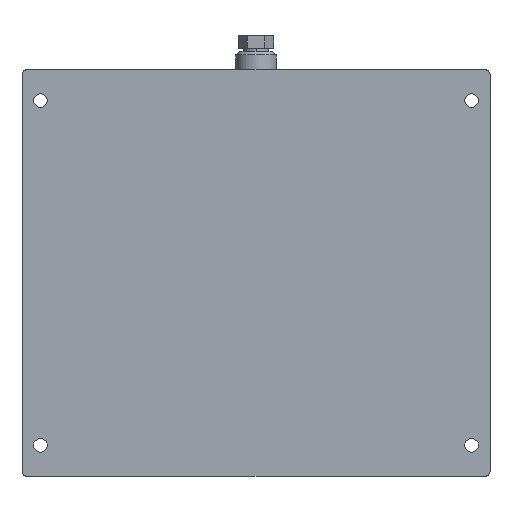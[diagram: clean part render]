
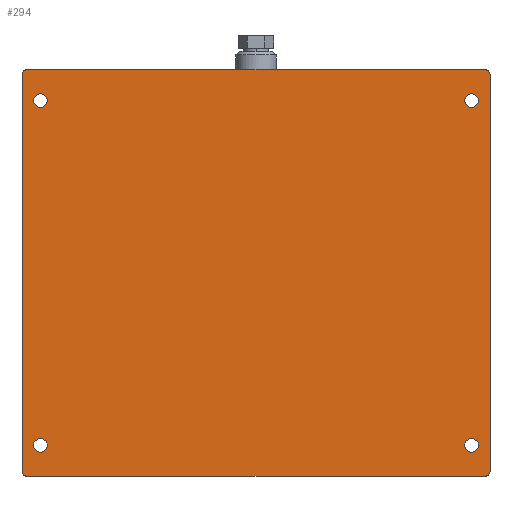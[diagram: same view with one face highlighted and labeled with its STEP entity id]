
A CAD part, front view. The second image highlights one B-rep face of the part: STEP entity #294.
In plain terms, the highlighted planar face has unit normal (0, -1, 0).
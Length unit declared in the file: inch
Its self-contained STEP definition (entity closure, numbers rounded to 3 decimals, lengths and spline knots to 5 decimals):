
#8 = CARTESIAN_POINT ( 'NONE',  ( -8.75, -0.1875, 7. ) ) ;
#44 = CARTESIAN_POINT ( 'NONE',  ( 9.5, -0.1875, 8.0625 ) ) ;
#72 = DIRECTION ( 'NONE',  ( 0., 1., 0. ) ) ;
#84 = EDGE_LOOP ( 'NONE', ( #1628, #2395 ) ) ;
#90 = ORIENTED_EDGE ( 'NONE', *, *, #1311, .F. ) ;
#91 = FACE_BOUND ( 'NONE', #2228, .T. ) ;
#112 = CARTESIAN_POINT ( 'NONE',  ( 8.75, -0.1875, -6.71875 ) ) ;
#143 = EDGE_CURVE ( 'NONE', #2047, #2865, #2014, .T. ) ;
#145 = DIRECTION ( 'NONE',  ( 0., 0., -1. ) ) ;
#162 = CARTESIAN_POINT ( 'NONE',  ( -9.5, -0.1875, 8.0625 ) ) ;
#231 = AXIS2_PLACEMENT_3D ( 'NONE', #2525, #860, #2510 ) ;
#235 = CARTESIAN_POINT ( 'NONE',  ( 8.75, -0.1875, -7. ) ) ;
#294 = ADVANCED_FACE ( 'NONE', ( #2486, #91, #2980, #1715, #2904 ), #1801, .F. ) ;
#296 = CARTESIAN_POINT ( 'NONE',  ( -9.3125, -0.1875, -8.25 ) ) ;
#305 = EDGE_CURVE ( 'NONE', #2865, #762, #2189, .T. ) ;
#311 = CIRCLE ( 'NONE', #2824, 0.28125 ) ;
#352 = VERTEX_POINT ( 'NONE', #1814 ) ;
#407 = CIRCLE ( 'NONE', #1064, 0.28125 ) ;
#409 = CIRCLE ( 'NONE', #1780, 0.1875 ) ;
#411 = VERTEX_POINT ( 'NONE', #162 ) ;
#431 = DIRECTION ( 'NONE',  ( 1., 0., 0. ) ) ;
#440 = DIRECTION ( 'NONE',  ( 0., 0., 1. ) ) ;
#441 = VERTEX_POINT ( 'NONE', #1335 ) ;
#471 = VECTOR ( 'NONE', #1276, 39.37008 ) ;
#507 = CARTESIAN_POINT ( 'NONE',  ( -8.75, -0.1875, -7. ) ) ;
#537 = ORIENTED_EDGE ( 'NONE', *, *, #1453, .T. ) ;
#563 = EDGE_CURVE ( 'NONE', #441, #979, #1050, .T. ) ;
#573 = CARTESIAN_POINT ( 'NONE',  ( 8.75, -0.1875, 7. ) ) ;
#587 = AXIS2_PLACEMENT_3D ( 'NONE', #507, #2616, #1717 ) ;
#633 = CARTESIAN_POINT ( 'NONE',  ( -8.75, -0.1875, 7.28125 ) ) ;
#640 = CARTESIAN_POINT ( 'NONE',  ( 8.75, -0.1875, 6.71875 ) ) ;
#677 = CIRCLE ( 'NONE', #231, 0.28125 ) ;
#679 = CARTESIAN_POINT ( 'NONE',  ( -8.75, -0.1875, -7.28125 ) ) ;
#732 = DIRECTION ( 'NONE',  ( 0., 1., 0. ) ) ;
#747 = ORIENTED_EDGE ( 'NONE', *, *, #1885, .F. ) ;
#762 = VERTEX_POINT ( 'NONE', #1198 ) ;
#777 = CIRCLE ( 'NONE', #3025, 0.28125 ) ;
#812 = ORIENTED_EDGE ( 'NONE', *, *, #2041, .F. ) ;
#852 = AXIS2_PLACEMENT_3D ( 'NONE', #2583, #1396, #1894 ) ;
#860 = DIRECTION ( 'NONE',  ( 0., 1., 0. ) ) ;
#917 = VECTOR ( 'NONE', #1339, 39.37008 ) ;
#943 = CIRCLE ( 'NONE', #1709, 0.1875 ) ;
#979 = VERTEX_POINT ( 'NONE', #112 ) ;
#982 = CIRCLE ( 'NONE', #2326, 0.28125 ) ;
#1018 = ORIENTED_EDGE ( 'NONE', *, *, #1690, .T. ) ;
#1040 = DIRECTION ( 'NONE',  ( 0., 1., 0. ) ) ;
#1050 = CIRCLE ( 'NONE', #852, 0.28125 ) ;
#1064 = AXIS2_PLACEMENT_3D ( 'NONE', #1624, #2057, #1602 ) ;
#1073 = VERTEX_POINT ( 'NONE', #679 ) ;
#1085 = DIRECTION ( 'NONE',  ( 0., 1., 0. ) ) ;
#1102 = DIRECTION ( 'NONE',  ( 0., 0., 1. ) ) ;
#1144 = CIRCLE ( 'NONE', #2005, 0.28125 ) ;
#1198 = CARTESIAN_POINT ( 'NONE',  ( -9.5, -0.1875, -8.0625 ) ) ;
#1221 = DIRECTION ( 'NONE',  ( 0., 0., -1. ) ) ;
#1276 = DIRECTION ( 'NONE',  ( -1., 0., 0. ) ) ;
#1291 = DIRECTION ( 'NONE',  ( 0., 1., 0. ) ) ;
#1311 = EDGE_CURVE ( 'NONE', #762, #411, #1716, .T. ) ;
#1315 = DIRECTION ( 'NONE',  ( 0., 0., -1. ) ) ;
#1335 = CARTESIAN_POINT ( 'NONE',  ( 8.75, -0.1875, -7.28125 ) ) ;
#1339 = DIRECTION ( 'NONE',  ( 0., 0., 1. ) ) ;
#1396 = DIRECTION ( 'NONE',  ( 0., 1., 0. ) ) ;
#1440 = LINE ( 'NONE', #2349, #2630 ) ;
#1453 = EDGE_CURVE ( 'NONE', #979, #441, #777, .T. ) ;
#1472 = CARTESIAN_POINT ( 'NONE',  ( -9.3125, -0.1875, -8.25 ) ) ;
#1512 = CARTESIAN_POINT ( 'NONE',  ( -9.3125, -0.1875, 8.0625 ) ) ;
#1518 = VERTEX_POINT ( 'NONE', #2335 ) ;
#1535 = CARTESIAN_POINT ( 'NONE',  ( 9.3125, -0.1875, -8.0625 ) ) ;
#1602 = DIRECTION ( 'NONE',  ( 0., 0., 1. ) ) ;
#1619 = EDGE_CURVE ( 'NONE', #1518, #2294, #1440, .T. ) ;
#1624 = CARTESIAN_POINT ( 'NONE',  ( 8.75, -0.1875, 7. ) ) ;
#1628 = ORIENTED_EDGE ( 'NONE', *, *, #2962, .T. ) ;
#1663 = EDGE_CURVE ( 'NONE', #352, #2060, #311, .T. ) ;
#1690 = EDGE_CURVE ( 'NONE', #1073, #2703, #2914, .T. ) ;
#1709 = AXIS2_PLACEMENT_3D ( 'NONE', #1512, #1040, #2710 ) ;
#1710 = VERTEX_POINT ( 'NONE', #2870 ) ;
#1715 = FACE_BOUND ( 'NONE', #2094, .T. ) ;
#1716 = LINE ( 'NONE', #1793, #917 ) ;
#1717 = DIRECTION ( 'NONE',  ( 0., 0., -1. ) ) ;
#1721 = ORIENTED_EDGE ( 'NONE', *, *, #2899, .F. ) ;
#1728 = ORIENTED_EDGE ( 'NONE', *, *, #2267, .T. ) ;
#1750 = EDGE_LOOP ( 'NONE', ( #2867, #2661, #1721, #90, #2858, #2433, #747, #812 ) ) ;
#1758 = CARTESIAN_POINT ( 'NONE',  ( -8.75, -0.1875, -6.71875 ) ) ;
#1759 = DIRECTION ( 'NONE',  ( 0., 0., -1. ) ) ;
#1770 = DIRECTION ( 'NONE',  ( 0., 0., -1. ) ) ;
#1777 = AXIS2_PLACEMENT_3D ( 'NONE', #2227, #1291, #2018 ) ;
#1780 = AXIS2_PLACEMENT_3D ( 'NONE', #1535, #2473, #1315 ) ;
#1793 = CARTESIAN_POINT ( 'NONE',  ( -9.5, -0.1875, 8.0625 ) ) ;
#1801 = PLANE ( 'NONE',  #1777 ) ;
#1814 = CARTESIAN_POINT ( 'NONE',  ( -8.75, -0.1875, 6.71875 ) ) ;
#1835 = CIRCLE ( 'NONE', #2687, 0.1875 ) ;
#1870 = CARTESIAN_POINT ( 'NONE',  ( 8.75, -0.1875, 7.28125 ) ) ;
#1885 = EDGE_CURVE ( 'NONE', #1710, #2047, #409, .T. ) ;
#1894 = DIRECTION ( 'NONE',  ( 0., 0., 1. ) ) ;
#1963 = EDGE_CURVE ( 'NONE', #2632, #2051, #1144, .T. ) ;
#2005 = AXIS2_PLACEMENT_3D ( 'NONE', #573, #2963, #2251 ) ;
#2014 = LINE ( 'NONE', #1472, #471 ) ;
#2018 = DIRECTION ( 'NONE',  ( 0., 0., 1. ) ) ;
#2019 = EDGE_CURVE ( 'NONE', #2294, #2464, #1835, .T. ) ;
#2024 = EDGE_CURVE ( 'NONE', #2051, #2632, #407, .T. ) ;
#2036 = CARTESIAN_POINT ( 'NONE',  ( 9.3125, -0.1875, 8.25 ) ) ;
#2041 = EDGE_CURVE ( 'NONE', #2464, #1710, #2562, .T. ) ;
#2047 = VERTEX_POINT ( 'NONE', #2089 ) ;
#2051 = VERTEX_POINT ( 'NONE', #1870 ) ;
#2057 = DIRECTION ( 'NONE',  ( 0., 1., 0. ) ) ;
#2060 = VERTEX_POINT ( 'NONE', #633 ) ;
#2064 = CARTESIAN_POINT ( 'NONE',  ( 9.3125, -0.1875, 8.0625 ) ) ;
#2089 = CARTESIAN_POINT ( 'NONE',  ( 9.3125, -0.1875, -8.25 ) ) ;
#2094 = EDGE_LOOP ( 'NONE', ( #2959, #2223 ) ) ;
#2189 = CIRCLE ( 'NONE', #2730, 0.1875 ) ;
#2223 = ORIENTED_EDGE ( 'NONE', *, *, #1963, .T. ) ;
#2227 = CARTESIAN_POINT ( 'NONE',  ( 9.3125, -0.1875, 8.0625 ) ) ;
#2228 = EDGE_LOOP ( 'NONE', ( #1728, #1018 ) ) ;
#2251 = DIRECTION ( 'NONE',  ( 0., 0., 1. ) ) ;
#2267 = EDGE_CURVE ( 'NONE', #2703, #1073, #677, .T. ) ;
#2288 = DIRECTION ( 'NONE',  ( 0., 1., 0. ) ) ;
#2294 = VERTEX_POINT ( 'NONE', #2036 ) ;
#2326 = AXIS2_PLACEMENT_3D ( 'NONE', #2734, #1085, #1770 ) ;
#2335 = CARTESIAN_POINT ( 'NONE',  ( -9.3125, -0.1875, 8.25 ) ) ;
#2340 = VECTOR ( 'NONE', #145, 39.37008 ) ;
#2349 = CARTESIAN_POINT ( 'NONE',  ( -9.3125, -0.1875, 8.25 ) ) ;
#2395 = ORIENTED_EDGE ( 'NONE', *, *, #1663, .T. ) ;
#2433 = ORIENTED_EDGE ( 'NONE', *, *, #143, .F. ) ;
#2464 = VERTEX_POINT ( 'NONE', #44 ) ;
#2473 = DIRECTION ( 'NONE',  ( 0., 1., 0. ) ) ;
#2486 = FACE_BOUND ( 'NONE', #84, .T. ) ;
#2510 = DIRECTION ( 'NONE',  ( 0., 0., -1. ) ) ;
#2525 = CARTESIAN_POINT ( 'NONE',  ( -8.75, -0.1875, -7. ) ) ;
#2530 = ORIENTED_EDGE ( 'NONE', *, *, #563, .T. ) ;
#2562 = LINE ( 'NONE', #2775, #2340 ) ;
#2583 = CARTESIAN_POINT ( 'NONE',  ( 8.75, -0.1875, -7. ) ) ;
#2602 = DIRECTION ( 'NONE',  ( 0., 1., 0. ) ) ;
#2616 = DIRECTION ( 'NONE',  ( 0., 1., 0. ) ) ;
#2630 = VECTOR ( 'NONE', #431, 39.37008 ) ;
#2632 = VERTEX_POINT ( 'NONE', #640 ) ;
#2661 = ORIENTED_EDGE ( 'NONE', *, *, #1619, .F. ) ;
#2687 = AXIS2_PLACEMENT_3D ( 'NONE', #2064, #2288, #1102 ) ;
#2703 = VERTEX_POINT ( 'NONE', #1758 ) ;
#2710 = DIRECTION ( 'NONE',  ( 0., 0., -1. ) ) ;
#2730 = AXIS2_PLACEMENT_3D ( 'NONE', #2951, #72, #1759 ) ;
#2734 = CARTESIAN_POINT ( 'NONE',  ( -8.75, -0.1875, 7. ) ) ;
#2775 = CARTESIAN_POINT ( 'NONE',  ( 9.5, -0.1875, 8.0625 ) ) ;
#2824 = AXIS2_PLACEMENT_3D ( 'NONE', #8, #732, #1221 ) ;
#2858 = ORIENTED_EDGE ( 'NONE', *, *, #305, .F. ) ;
#2865 = VERTEX_POINT ( 'NONE', #296 ) ;
#2867 = ORIENTED_EDGE ( 'NONE', *, *, #2019, .F. ) ;
#2870 = CARTESIAN_POINT ( 'NONE',  ( 9.5, -0.1875, -8.0625 ) ) ;
#2873 = EDGE_LOOP ( 'NONE', ( #537, #2530 ) ) ;
#2899 = EDGE_CURVE ( 'NONE', #411, #1518, #943, .T. ) ;
#2904 = FACE_OUTER_BOUND ( 'NONE', #1750, .T. ) ;
#2914 = CIRCLE ( 'NONE', #587, 0.28125 ) ;
#2951 = CARTESIAN_POINT ( 'NONE',  ( -9.3125, -0.1875, -8.0625 ) ) ;
#2959 = ORIENTED_EDGE ( 'NONE', *, *, #2024, .T. ) ;
#2962 = EDGE_CURVE ( 'NONE', #2060, #352, #982, .T. ) ;
#2963 = DIRECTION ( 'NONE',  ( 0., 1., 0. ) ) ;
#2980 = FACE_BOUND ( 'NONE', #2873, .T. ) ;
#3025 = AXIS2_PLACEMENT_3D ( 'NONE', #235, #2602, #440 ) ;
